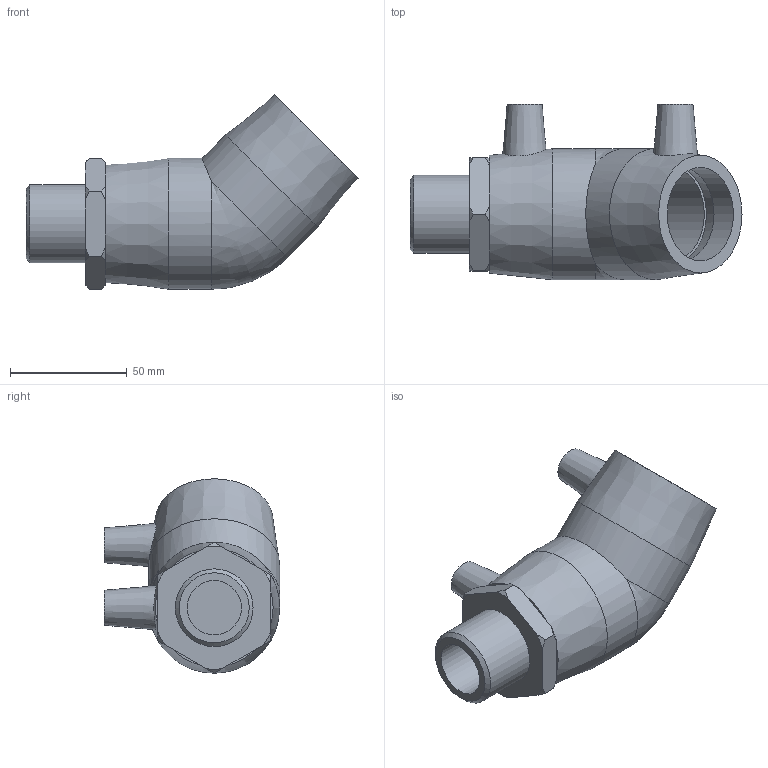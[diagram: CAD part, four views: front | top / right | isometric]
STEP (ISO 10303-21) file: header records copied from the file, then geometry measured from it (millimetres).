
FILE_DESCRIPTION(/* description */ ('PLASSON 45° ELBOW TRANSITION MALE 40-1"'),/* implementation_level */ '2;1');
FILE_NAME(/* name */ 'C:\Dropbox\KIMPROJECTS-Inventor\99-16-3568-Processing\ElectroFusion Fittings\02.02.20\492604\492604040010.ipt.stp',/* time_stamp */ '2020-02-02T12:19:55+02:00',/* author */ ('KIM'),/* organization */ (''),/* preprocessor_version */ 'ST-DEVELOPER v15.6',/* originating_system */ 'Autodesk Inventor 2015',/* authorisation */ '');
FILE_SCHEMA (('AUTOMOTIVE_DESIGN { 1 0 10303 214 3 1 1 }'));
Length unit declared in the file: millimetre
Products named in the file (1): 492604040010
Bounding box: 142 x 75 x 83.17 mm (x, y, z)
Volume: 190318.4 mm3; surface area: 45347.5 mm2
Topology: 1 solids, 2 shells, 59 faces, 133 edges, 88 vertices
Faces by surface type: plane 24, cone 19, cylinder 15, bspline 1
Full cylindrical faces by diameter (mm): 4 x2, 10 x2, 23.274 x1, 26 x2, 29 x1, 33.249 x1, 40 x4, 56 x2
Entity records: 1494 total; most frequent: CARTESIAN_POINT 363, DIRECTION 236, ORIENTED_EDGE 188, AXIS2_PLACEMENT_3D 109, EDGE_LOOP 97, EDGE_CURVE 94, VERTEX_POINT 75, FACE_OUTER_BOUND 59
